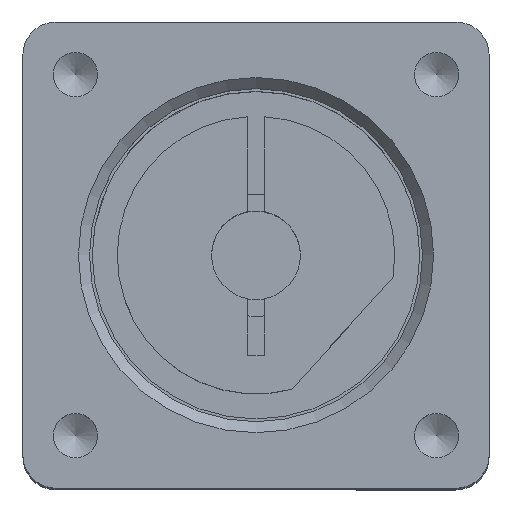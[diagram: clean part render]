
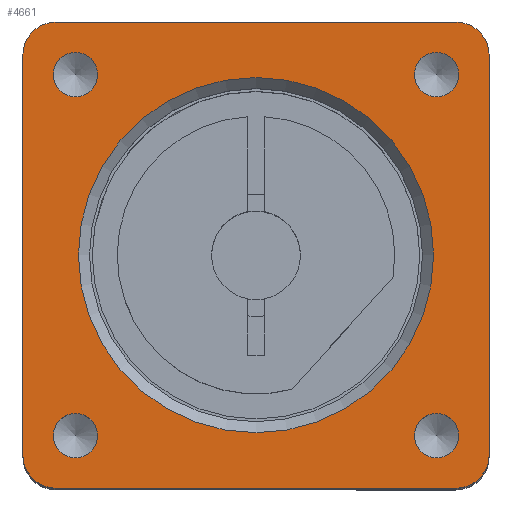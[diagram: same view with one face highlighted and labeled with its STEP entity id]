
A CAD part, top view. The second image highlights one B-rep face of the part: STEP entity #4661.
In plain terms, the highlighted planar face has unit normal (0, 0, 1).
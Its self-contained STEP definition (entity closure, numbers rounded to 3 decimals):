
#4135=CARTESIAN_POINT('',(16.263,-18.263,13.5));
#4136=VERTEX_POINT('',#4135);
#4137=CARTESIAN_POINT('',(16.263,-16.263,13.5));
#4138=DIRECTION('',(0.0,0.0,-1.0));
#4139=DIRECTION('',(0.0,-1.0,0.0));
#4140=AXIS2_PLACEMENT_3D('',#4137,#4138,#4139);
#4141=CIRCLE('',#4140,2.0);
#4142=EDGE_CURVE('',#4136,#4136,#4141,.T.);
#4214=CARTESIAN_POINT('',(-18.263,-16.263,13.5));
#4215=VERTEX_POINT('',#4214);
#4216=CARTESIAN_POINT('',(-16.263,-16.263,13.5));
#4217=DIRECTION('',(0.0,0.0,-1.0));
#4218=DIRECTION('',(-1.0,0.0,0.0));
#4219=AXIS2_PLACEMENT_3D('',#4216,#4217,#4218);
#4220=CIRCLE('',#4219,2.0);
#4221=EDGE_CURVE('',#4215,#4215,#4220,.T.);
#4293=CARTESIAN_POINT('',(-16.263,18.263,13.5));
#4294=VERTEX_POINT('',#4293);
#4295=CARTESIAN_POINT('',(-16.263,16.263,13.5));
#4296=DIRECTION('',(0.0,0.0,-1.0));
#4297=DIRECTION('',(0.0,1.0,0.0));
#4298=AXIS2_PLACEMENT_3D('',#4295,#4296,#4297);
#4299=CIRCLE('',#4298,2.0);
#4300=EDGE_CURVE('',#4294,#4294,#4299,.T.);
#4372=CARTESIAN_POINT('',(18.263,16.263,13.5));
#4373=VERTEX_POINT('',#4372);
#4374=CARTESIAN_POINT('',(16.263,16.263,13.5));
#4375=DIRECTION('',(0.0,0.0,-1.0));
#4376=DIRECTION('',(1.0,0.0,0.0));
#4377=AXIS2_PLACEMENT_3D('',#4374,#4375,#4376);
#4378=CIRCLE('',#4377,2.0);
#4379=EDGE_CURVE('',#4373,#4373,#4378,.T.);
#4518=CARTESIAN_POINT('',(16.0,0.,13.5));
#4519=VERTEX_POINT('',#4518);
#4520=CARTESIAN_POINT('',(0.0,0.0,13.5));
#4521=DIRECTION('',(0.0,0.0,1.0));
#4522=DIRECTION('',(-1.0,0.0,0.0));
#4523=AXIS2_PLACEMENT_3D('',#4520,#4521,#4522);
#4524=CIRCLE('',#4523,16.0);
#4525=EDGE_CURVE('',#4519,#4519,#4524,.T.);
#4571=CARTESIAN_POINT('',(0.,0.,13.5));
#4572=DIRECTION('',(0.0,0.0,1.0));
#4573=DIRECTION('',(1.0,0.0,0.0));
#4574=AXIS2_PLACEMENT_3D('',#4571,#4572,#4573);
#4575=PLANE('',#4574);
#4576=CARTESIAN_POINT('',(-21.,18.,13.5));
#4577=VERTEX_POINT('',#4576);
#4578=CARTESIAN_POINT('',(-18.0,21.,13.5));
#4579=VERTEX_POINT('',#4578);
#4580=CARTESIAN_POINT('',(-18.,18.,13.5));
#4581=DIRECTION('',(0.0,0.0,-1.0));
#4582=DIRECTION('',(0.0,1.0,0.0));
#4583=AXIS2_PLACEMENT_3D('',#4580,#4581,#4582);
#4584=CIRCLE('',#4583,3.);
#4585=EDGE_CURVE('',#4577,#4579,#4584,.T.);
#4586=ORIENTED_EDGE('',*,*,#4585,.F.);
#4587=CARTESIAN_POINT('',(-21.,-18.,13.5));
#4588=VERTEX_POINT('',#4587);
#4589=CARTESIAN_POINT('',(-21.,-18.,13.5));
#4590=DIRECTION('',(0.0,1.0,0.0));
#4591=VECTOR('',#4590,36.);
#4592=LINE('',#4589,#4591);
#4593=EDGE_CURVE('',#4588,#4577,#4592,.T.);
#4594=ORIENTED_EDGE('',*,*,#4593,.F.);
#4595=CARTESIAN_POINT('',(-18.,-21.,13.5));
#4596=VERTEX_POINT('',#4595);
#4597=CARTESIAN_POINT('',(-18.,-18.,13.5));
#4598=DIRECTION('',(0.0,0.0,-1.0));
#4599=DIRECTION('',(-1.0,0.0,0.0));
#4600=AXIS2_PLACEMENT_3D('',#4597,#4598,#4599);
#4601=CIRCLE('',#4600,3.);
#4602=EDGE_CURVE('',#4596,#4588,#4601,.T.);
#4603=ORIENTED_EDGE('',*,*,#4602,.F.);
#4604=CARTESIAN_POINT('',(18.,-21.,13.5));
#4605=VERTEX_POINT('',#4604);
#4606=CARTESIAN_POINT('',(18.0,-21.,13.5));
#4607=DIRECTION('',(-1.0,0.0,0.0));
#4608=VECTOR('',#4607,36.);
#4609=LINE('',#4606,#4608);
#4610=EDGE_CURVE('',#4605,#4596,#4609,.T.);
#4611=ORIENTED_EDGE('',*,*,#4610,.F.);
#4612=CARTESIAN_POINT('',(21.,-18.,13.5));
#4613=VERTEX_POINT('',#4612);
#4614=CARTESIAN_POINT('',(18.0,-18.0,13.5));
#4615=DIRECTION('',(0.0,0.0,-1.0));
#4616=DIRECTION('',(0.0,-1.0,0.0));
#4617=AXIS2_PLACEMENT_3D('',#4614,#4615,#4616);
#4618=CIRCLE('',#4617,3.);
#4619=EDGE_CURVE('',#4613,#4605,#4618,.T.);
#4620=ORIENTED_EDGE('',*,*,#4619,.F.);
#4621=CARTESIAN_POINT('',(21.,18.,13.5));
#4622=VERTEX_POINT('',#4621);
#4623=CARTESIAN_POINT('',(21.,18.,13.5));
#4624=DIRECTION('',(0.0,-1.0,0.0));
#4625=VECTOR('',#4624,36.);
#4626=LINE('',#4623,#4625);
#4627=EDGE_CURVE('',#4622,#4613,#4626,.T.);
#4628=ORIENTED_EDGE('',*,*,#4627,.F.);
#4629=CARTESIAN_POINT('',(18.,21.,13.5));
#4630=VERTEX_POINT('',#4629);
#4631=CARTESIAN_POINT('',(18.,18.0,13.5));
#4632=DIRECTION('',(0.0,0.0,-1.0));
#4633=DIRECTION('',(1.0,0.0,0.0));
#4634=AXIS2_PLACEMENT_3D('',#4631,#4632,#4633);
#4635=CIRCLE('',#4634,3.);
#4636=EDGE_CURVE('',#4630,#4622,#4635,.T.);
#4637=ORIENTED_EDGE('',*,*,#4636,.F.);
#4638=CARTESIAN_POINT('',(-18.0,21.,13.5));
#4639=DIRECTION('',(1.0,0.0,0.0));
#4640=VECTOR('',#4639,36.);
#4641=LINE('',#4638,#4640);
#4642=EDGE_CURVE('',#4579,#4630,#4641,.T.);
#4643=ORIENTED_EDGE('',*,*,#4642,.F.);
#4644=EDGE_LOOP('',(#4586,#4594,#4603,#4611,#4620,#4628,#4637,#4643));
#4645=FACE_OUTER_BOUND('',#4644,.T.);
#4646=ORIENTED_EDGE('',*,*,#4142,.T.);
#4647=EDGE_LOOP('',(#4646));
#4648=FACE_BOUND('',#4647,.T.);
#4649=ORIENTED_EDGE('',*,*,#4221,.T.);
#4650=EDGE_LOOP('',(#4649));
#4651=FACE_BOUND('',#4650,.T.);
#4652=ORIENTED_EDGE('',*,*,#4300,.T.);
#4653=EDGE_LOOP('',(#4652));
#4654=FACE_BOUND('',#4653,.T.);
#4655=ORIENTED_EDGE('',*,*,#4379,.T.);
#4656=EDGE_LOOP('',(#4655));
#4657=FACE_BOUND('',#4656,.T.);
#4658=ORIENTED_EDGE('',*,*,#4525,.F.);
#4659=EDGE_LOOP('',(#4658));
#4660=FACE_BOUND('',#4659,.T.);
#4661=ADVANCED_FACE('',(#4645,#4648,#4651,#4654,#4657,#4660),#4575,.T.);
